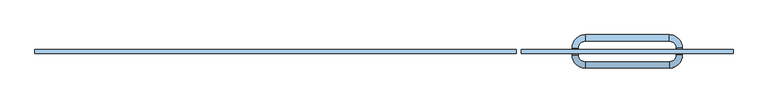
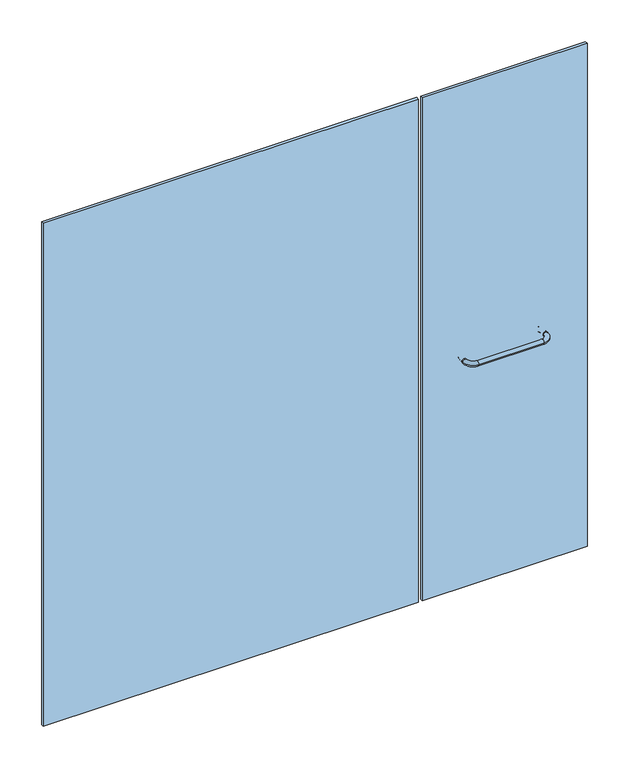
"""IFC4 building model written with IfcOpenShell, lengths in millimetres: window geometry, Baño 1 Puerta lateral - toallero simple : CA05-cancel baño-2.06."""

from ifc_helpers import new_model, si_unit, point, frame, origin, origin_with_axes, place, context, project, spatial, polyline, circle_curve, ellipse_curve, trimmed, outline, extrude, source, transform, mapped, element, save
from ifc_brep_helpers import cylinder_surface, revolved_surface, advanced_brep


def window_4e6a734b(model_context):
    return source(origin(), model_context, "Body", "SolidModel", [
        extrude(outline(polyline([(395.0, -5.5), (395.0, 5.5), (1015.0, 5.5), (1015.0, -5.5), (395.0, -5.5)])), origin_with_axes(), (0.0, 0.0, 1.0), 2000.0),
        extrude(outline(polyline([(-1030.0, -5.5), (-1030.0, 5.5), (380.0, 5.5), (380.0, -5.5), (-1030.0, -5.5)])), origin_with_axes(), (0.0, 0.0, 1.0), 2000.0),
        advanced_brep(
        [(543.5, 10.0, 900.0), (582.5, 49.0, 900.0), (582.5, 31.0, 900.0), (561.5, 10.0, 900.0), (561.5, -10.0, 900.0), (543.5, -10.0, 900.0), (582.5, -49.0, 900.0), (582.5, -31.0, 900.0), (827.5, -31.0, 900.0), (827.5, -49.0, 900.0), (866.5, -10.0, 900.0), (848.5, -10.0, 900.0), (848.5, 10.0, 900.0), (866.5, 10.0, 900.0), (827.5, 49.0, 900.0), (827.5, 31.0, 900.0)],
        [
            (0, 1, circle_curve(frame((582.5, 10.0, 900.0), z_axis=(0.0, 0.0, -1.0), x_axis=(0.0, 1.0, 0.0)), 39.0)),
            (1, 2, circle_curve(frame((582.5, 40.0, 900.0), z_axis=(-1.0, 0.0, 0.0), x_axis=(0.0, -1.0, 0.0)), 9.0)),
            (2, 3, circle_curve(frame((582.5, 10.0, 900.0), z_axis=(0.0, 0.0, 1.0), x_axis=(0.0, 1.0, 0.0)), 21.0)),
            (3, 0, circle_curve(frame((552.5, 10.0, 900.0), z_axis=(0.0, 1.0, 0.0), x_axis=(1.0, 0.0, 0.0)), 9.0)),
            (2, 1, circle_curve(frame((582.5, 40.0, 900.0), z_axis=(-1.0, 0.0, 0.0), x_axis=(0.0, -1.0, 0.0)), 9.0)),
            (0, 3, circle_curve(frame((552.5, 10.0, 900.0), z_axis=(0.0, 1.0, 0.0), x_axis=(1.0, 0.0, 0.0)), 9.0)),
            (3, 4),
            (4, 5, circle_curve(frame((552.5, -10.0, 900.0), z_axis=(0.0, 1.0, 0.0), x_axis=(1.0, 0.0, 0.0)), 9.0)),
            (5, 0),
            (5, 4, circle_curve(frame((552.5, -10.0, 900.0), z_axis=(0.0, 1.0, 0.0), x_axis=(1.0, 0.0, 0.0)), 9.0)),
            (6, 5, circle_curve(frame((582.5, -10.0, 900.0), z_axis=(0.0, 0.0, -1.0), x_axis=(-1.0, 0.0, 0.0)), 39.0)),
            (4, 7, circle_curve(frame((582.5, -10.0, 900.0), z_axis=(0.0, 0.0, 1.0), x_axis=(-1.0, 0.0, 0.0)), 21.0)),
            (7, 6, circle_curve(frame((582.5, -40.0, 900.0), z_axis=(-1.0, 0.0, 0.0), x_axis=(0.0, 1.0, 0.0)), 9.0)),
            (6, 7, circle_curve(frame((582.5, -40.0, 900.0), z_axis=(-1.0, 0.0, 0.0), x_axis=(0.0, 1.0, 0.0)), 9.0)),
            (7, 8),
            (8, 9, circle_curve(frame((827.5, -40.0, 900.0), z_axis=(-1.0, 0.0, 0.0), x_axis=(0.0, 1.0, 0.0)), 9.0)),
            (9, 6),
            (9, 8, circle_curve(frame((827.5, -40.0, 900.0), z_axis=(-1.0, 0.0, 0.0), x_axis=(0.0, 1.0, 0.0)), 9.0)),
            (10, 9, circle_curve(frame((827.5, -10.0, 900.0), z_axis=(0.0, 0.0, -1.0), x_axis=(0.0, -1.0, 0.0)), 39.0)),
            (8, 11, circle_curve(frame((827.5, -10.0, 900.0), z_axis=(0.0, 0.0, 1.0), x_axis=(0.0, -1.0, 0.0)), 21.0)),
            (11, 10, circle_curve(frame((857.5, -10.0, 900.0), z_axis=(0.0, -1.0, 0.0), x_axis=(-1.0, 0.0, 0.0)), 9.0)),
            (10, 11, circle_curve(frame((857.5, -10.0, 900.0), z_axis=(0.0, -1.0, 0.0), x_axis=(-1.0, 0.0, 0.0)), 9.0)),
            (11, 12),
            (12, 13, circle_curve(frame((857.5, 10.0, 900.0), z_axis=(0.0, -1.0, 0.0), x_axis=(-1.0, 0.0, 0.0)), 9.0)),
            (13, 10),
            (13, 12, circle_curve(frame((857.5, 10.0, 900.0), z_axis=(0.0, -1.0, 0.0), x_axis=(-1.0, 0.0, 0.0)), 9.0)),
            (14, 13, circle_curve(frame((827.5, 10.0, 900.0), z_axis=(0.0, 0.0, -1.0), x_axis=(1.0, 0.0, 0.0)), 39.0)),
            (12, 15, circle_curve(frame((827.5, 10.0, 900.0), z_axis=(0.0, 0.0, 1.0), x_axis=(1.0, 0.0, 0.0)), 21.0)),
            (15, 14, circle_curve(frame((827.5, 40.0, 900.0), z_axis=(1.0, 0.0, 0.0), x_axis=(0.0, -1.0, 0.0)), 9.0)),
            (14, 15, circle_curve(frame((827.5, 40.0, 900.0), z_axis=(1.0, 0.0, 0.0), x_axis=(0.0, -1.0, 0.0)), 9.0)),
            (15, 2),
            (1, 14),
        ],
        [
            revolved_surface(trimmed(ellipse_curve(frame((582.5, 40.0, 900.0), z_axis=(1.0, 0.0, 0.0), x_axis=(0.0, -1.0, 0.0)), 9.0, 9.0), [point((582.5, 31.0, 900.0))], [point((582.5, 49.0, 900.0))], True, "CARTESIAN"), (582.5, 10.0, 0.0), (0.0, 0.0, 1.0)),
            revolved_surface(trimmed(ellipse_curve(frame((582.5, 40.0, 900.0), z_axis=(1.0, 0.0, 0.0), x_axis=(0.0, -1.0, 0.0)), 9.0, 9.0), [point((582.5, 49.0, 900.0))], [point((582.5, 31.0, 900.0))], True, "CARTESIAN"), (582.5, 10.0, 0.0), (0.0, 0.0, 1.0)),
            cylinder_surface(frame((552.5, 10.0, 900.0), z_axis=(0.0, 1.0, 0.0), x_axis=(1.0, 0.0, 0.0)), 9.0),
            revolved_surface(trimmed(ellipse_curve(frame((552.5, -10.0, 900.0), z_axis=(0.0, 1.0, 0.0), x_axis=(1.0, 0.0, 0.0)), 9.0, 9.0), [point((561.5, -10.0, 900.0))], [point((543.5, -10.0, 900.0))], True, "CARTESIAN"), (582.5, -10.0, 0.0), (0.0, 0.0, 1.0)),
            revolved_surface(trimmed(ellipse_curve(frame((552.5, -10.0, 900.0), z_axis=(0.0, 1.0, 0.0), x_axis=(1.0, 0.0, 0.0)), 9.0, 9.0), [point((543.5, -10.0, 900.0))], [point((561.5, -10.0, 900.0))], True, "CARTESIAN"), (582.5, -10.0, 0.0), (0.0, 0.0, 1.0)),
            cylinder_surface(frame((582.5, -40.0, 900.0), z_axis=(-1.0, 0.0, 0.0), x_axis=(0.0, 1.0, 0.0)), 9.0),
            revolved_surface(trimmed(ellipse_curve(frame((827.5, -40.0, 900.0), z_axis=(-1.0, 0.0, 0.0), x_axis=(0.0, 1.0, 0.0)), 9.0, 9.0), [point((827.5, -31.0, 900.0))], [point((827.5, -49.0, 900.0))], True, "CARTESIAN"), (827.5, -10.0, 0.0), (0.0, 0.0, 1.0)),
            revolved_surface(trimmed(ellipse_curve(frame((827.5, -40.0, 900.0), z_axis=(-1.0, 0.0, 0.0), x_axis=(0.0, 1.0, 0.0)), 9.0, 9.0), [point((827.5, -49.0, 900.0))], [point((827.5, -31.0, 900.0))], True, "CARTESIAN"), (827.5, -10.0, 0.0), (0.0, 0.0, 1.0)),
            cylinder_surface(frame((857.5, -10.0, 900.0), z_axis=(0.0, -1.0, 0.0), x_axis=(-1.0, 0.0, 0.0)), 9.0),
            revolved_surface(trimmed(ellipse_curve(frame((857.5, 10.0, 900.0), z_axis=(0.0, -1.0, 0.0), x_axis=(-1.0, 0.0, 0.0)), 9.0, 9.0), [point((848.5, 10.0, 900.0))], [point((866.5, 10.0, 900.0))], True, "CARTESIAN"), (827.5, 10.0, 0.0), (0.0, 0.0, 1.0)),
            revolved_surface(trimmed(ellipse_curve(frame((857.5, 10.0, 900.0), z_axis=(0.0, -1.0, 0.0), x_axis=(-1.0, 0.0, 0.0)), 9.0, 9.0), [point((866.5, 10.0, 900.0))], [point((848.5, 10.0, 900.0))], True, "CARTESIAN"), (827.5, 10.0, 0.0), (0.0, 0.0, 1.0)),
            cylinder_surface(frame((827.5, 40.0, 900.0), z_axis=(1.0, 0.0, 0.0), x_axis=(0.0, -1.0, 0.0)), 9.0),
        ],
        [
            (0, [[1, 2, 3, 4]]),
            (1, [[-3, 5, -1, 6]]),
            (2, [[-4, 7, 8, 9]]),
            (2, [[-6, -9, 10, -7]]),
            (3, [[11, -8, 12, 13]]),
            (4, [[-12, -10, -11, 14]]),
            (5, [[-13, 15, 16, 17]]),
            (5, [[-14, -17, 18, -15]]),
            (6, [[19, -16, 20, 21]]),
            (7, [[-20, -18, -19, 22]]),
            (8, [[-21, 23, 24, 25]]),
            (8, [[-22, -25, 26, -23]]),
            (9, [[27, -24, 28, 29]]),
            (10, [[-28, -26, -27, 30]]),
            (11, [[-29, 31, -2, 32]]),
            (11, [[-30, -32, -5, -31]]),
        ],
    ),
    ])


if __name__ == "__main__":
    model = new_model("IFC4")
    model_context = context("Model", 3, world=origin())
    ifc_project = project(units=[si_unit("LENGTHUNIT", "METRE", prefix="MILLI")], contexts=[model_context])
    site = spatial("IfcSite", under=ifc_project)
    building = spatial("IfcBuilding", under=site)
    placement = place(None, origin())
    window_shape = window_4e6a734b(model_context)
    element("IfcWindow", 1, ObjectType="Baño 1 Puerta lateral - toallero simple : CA05-cancel baño-2.06", at=placement, inside=building, context=model_context, shape_type="MappedRepresentation", body=[
        mapped(window_shape, transform((0.0, 0.0, 0.0), x_axis=(1.0, 0.0, 0.0), y_axis=(0.0, 1.0, 0.0), z_axis=(0.0, 0.0, 1.0))),
    ])
    save(model, "model.ifc")
